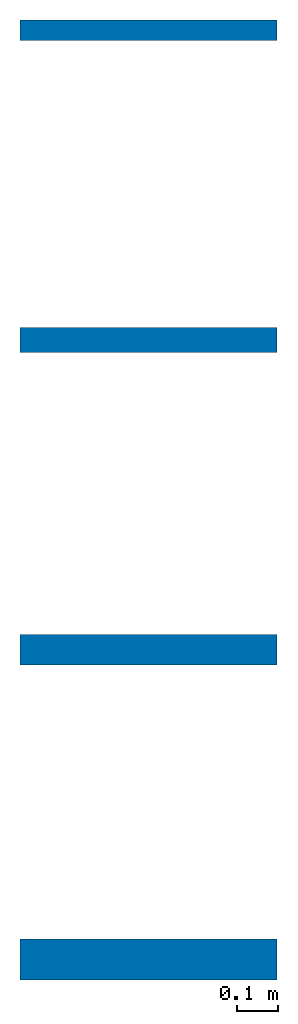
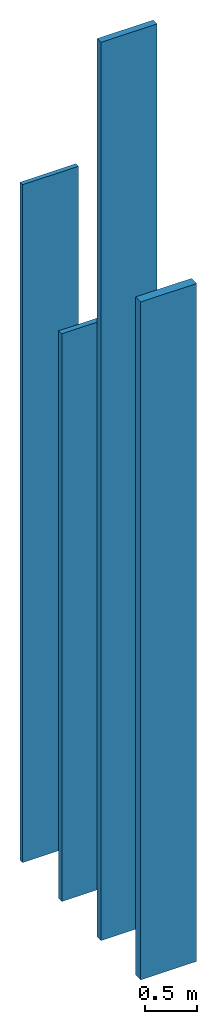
# One storey: 4 walls.
"""IFC2X3 building model written with IfcOpenShell, lengths in millimetres."""

from ifc_helpers import new_model, entity, si_unit, converted_unit, derived_unit, direction, frame, frame_2d, origin, place, context, subcontext, project, spatial, rectangle, extrude, material, layer, layer_set, layer_usage, type_object, element, save


model = new_model("IFC2X3")

# Units and contexts
model_context = context("Model", 3, precision=0.01, world=origin(), true_north=direction((6.12303176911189e-17, 1.0)))
body_context = subcontext(model_context, "Body", "Model", "MODEL_VIEW")
ifc_project = project(units=[si_unit("LENGTHUNIT", "METRE", prefix="MILLI"), si_unit("AREAUNIT", "SQUARE_METRE"), si_unit("VOLUMEUNIT", "CUBIC_METRE"), converted_unit("PLANEANGLEUNIT", "DEGREE", entity("IfcRatioMeasure", 0.0174532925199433), si_unit("PLANEANGLEUNIT", "RADIAN"), dimensions=[0, 0, 0, 0, 0, 0, 0]), si_unit("MASSUNIT", "GRAM", prefix="KILO"), si_unit("TIMEUNIT", "SECOND"), si_unit("FREQUENCYUNIT", "HERTZ"), si_unit("THERMODYNAMICTEMPERATUREUNIT", "DEGREE_CELSIUS"), derived_unit("THERMALTRANSMITTANCEUNIT", [(si_unit("MASSUNIT", "GRAM", prefix="KILO"), 1), (si_unit("THERMODYNAMICTEMPERATUREUNIT", "KELVIN"), -1), (si_unit("TIMEUNIT", "SECOND"), -3)]), derived_unit("VOLUMETRICFLOWRATEUNIT", [(si_unit("LENGTHUNIT", "METRE"), 3), (si_unit("TIMEUNIT", "SECOND"), -1)]), si_unit("ELECTRICCURRENTUNIT", "AMPERE"), si_unit("ELECTRICVOLTAGEUNIT", "VOLT"), si_unit("POWERUNIT", "WATT"), si_unit("FORCEUNIT", "NEWTON", prefix="KILO"), si_unit("ILLUMINANCEUNIT", "LUX"), si_unit("LUMINOUSFLUXUNIT", "LUMEN"), si_unit("LUMINOUSINTENSITYUNIT", "CANDELA"), derived_unit("USERDEFINED", [(si_unit("MASSUNIT", "GRAM", prefix="KILO"), -1), (si_unit("LENGTHUNIT", "METRE"), -2), (si_unit("TIMEUNIT", "SECOND"), 3), (si_unit("LUMINOUSFLUXUNIT", "LUMEN"), 1)]), derived_unit("LINEARVELOCITYUNIT", [(si_unit("LENGTHUNIT", "METRE"), 1), (si_unit("TIMEUNIT", "SECOND"), -1)]), si_unit("PRESSUREUNIT", "PASCAL"), derived_unit("USERDEFINED", [(si_unit("LENGTHUNIT", "METRE"), -2), (si_unit("MASSUNIT", "GRAM", prefix="KILO"), 1), (si_unit("TIMEUNIT", "SECOND"), -2)])], contexts=[model_context])

# Site, building, storey
site_placement = place(None, origin())
site = spatial("IfcSite", under=ifc_project, at=site_placement, Name="Default", CompositionType="ELEMENT")
building_placement = place(site_placement, origin())
building = spatial("IfcBuilding", under=site, at=building_placement, CompositionType="ELEMENT")
storey_placement = place(building_placement, origin())
storey = spatial("IfcBuildingStorey", under=building, at=storey_placement, Name="Референтни ниво", CompositionType="ELEMENT", Elevation=0.0)

# Walls
ifc_material_1 = material(Name="Knauf Insulation - Decibel - 50 mm - 50 x 8000 x 625 mm")
ifc_layer_1 = layer(ifc_material_1, 50.0)
ifc_layer_set_1 = layer_set([ifc_layer_1], Name="Basic Wall:Knauf Insulation - Decibel - 50 mm -50 x 8000 x 625 mm")
ifc_layer_usage_1 = layer_usage(ifc_layer_set_1, "AXIS2", "NEGATIVE", 25.0)
wall_type_1 = type_object("IfcWallType", Name="Basic Wall:Knauf Insulation - Decibel - 50 mm -50 x 8000 x 625 mm", PredefinedType="STANDARD", material=ifc_layer_set_1)
wall_1_placement = place(storey_placement, frame((-223048.241782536, 183217.205473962, 0.0)))
element("IfcWallStandardCase", 1, at=wall_1_placement, inside=storey, type_object=wall_type_1, material=ifc_layer_usage_1, Name="Basic Wall:Knauf Insulation - Decibel - 50 mm -50 x 8000 x 625 mm", ObjectType="Basic Wall:Knauf Insulation - Decibel - 50 mm -50 x 8000 x 625 mm", context=body_context, shape_type="SweptSolid", body=[
    extrude(rectangle(XDim=625.000000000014, YDim=50.0000000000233, at=frame_2d((312.500000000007, 0.0), x_axis=(-1.0, 0.0))), origin(), (0.0, 0.0, 1.0), 8000.0),
])
ifc_material_2 = material(Name="Knauf Insulation - Decibel - 60 mm - 60 x 6700 x 625 mm")
ifc_layer_2 = layer(ifc_material_2, 60.0)
ifc_layer_set_2 = layer_set([ifc_layer_2], Name="Basic Wall:Knauf Insulation - Decibel - 60 mm - 60 x 6700 x 625 mm")
ifc_layer_usage_2 = layer_usage(ifc_layer_set_2, "AXIS2", "NEGATIVE", 30.0)
wall_type_2 = type_object("IfcWallType", Name="Basic Wall:Knauf Insulation - Decibel - 60 mm - 60 x 6700 x 625 mm", PredefinedType="STANDARD", material=ifc_layer_set_2)
wall_2_placement = place(storey_placement, frame((-223048.241782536, 182464.705473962, 0.0)))
element("IfcWallStandardCase", 2, at=wall_2_placement, inside=storey, type_object=wall_type_2, material=ifc_layer_usage_2, Name="Basic Wall:Knauf Insulation - Decibel - 60 mm - 60 x 6700 x 625 mm", ObjectType="Basic Wall:Knauf Insulation - Decibel - 60 mm - 60 x 6700 x 625 mm", context=body_context, shape_type="SweptSolid", body=[
    extrude(rectangle(XDim=625.000000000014, YDim=59.9999999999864, at=frame_2d((312.500000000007, 0.0), x_axis=(-1.0, 0.0))), origin(), (0.0, 0.0, 1.0), 6700.0),
])
ifc_material_3 = material(Name="Knauf Insulation - Decibel - 75 mm - 75 x 10600 x 625 mm")
ifc_layer_3 = layer(ifc_material_3, 75.0)
ifc_layer_set_3 = layer_set([ifc_layer_3], Name="Basic Wall:Knauf Insulation - Decibel - 75 mm - 75 x 10600 x 625 mm")
ifc_layer_usage_3 = layer_usage(ifc_layer_set_3, "AXIS2", "NEGATIVE", 37.5)
wall_type_3 = type_object("IfcWallType", Name="Basic Wall:Knauf Insulation - Decibel - 75 mm - 75 x 10600 x 625 mm", PredefinedType="STANDARD", material=ifc_layer_set_3)
wall_3_placement = place(storey_placement, frame((-223048.241782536, 181712.205473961, 0.0)))
element("IfcWallStandardCase", 3, at=wall_3_placement, inside=storey, type_object=wall_type_3, material=ifc_layer_usage_3, Name="Basic Wall:Knauf Insulation - Decibel - 75 mm - 75 x 10600 x 625 mm", ObjectType="Basic Wall:Knauf Insulation - Decibel - 75 mm - 75 x 10600 x 625 mm", context=body_context, shape_type="SweptSolid", body=[
    extrude(rectangle(XDim=625.000000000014, YDim=74.9999999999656, at=frame_2d((312.500000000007, 0.0), x_axis=(-1.0, 0.0))), origin(), (0.0, 0.0, 1.0), 10600.0),
])
ifc_material_4 = material(Name="Knauf Insulation - Decibel - 100 mm - 100 x 8000 x 625 mm")
ifc_layer_4 = layer(ifc_material_4, 100.0)
ifc_layer_set_4 = layer_set([ifc_layer_4], Name="Basic Wall:Knauf Insulation - Decibel - 100 mm - 100 x 8000 x 625 mm")
ifc_layer_usage_4 = layer_usage(ifc_layer_set_4, "AXIS2", "NEGATIVE", 50.0)
wall_type_4 = type_object("IfcWallType", Name="Basic Wall:Knauf Insulation - Decibel - 100 mm - 100 x 8000 x 625 mm", PredefinedType="STANDARD", material=ifc_layer_set_4)
wall_4_placement = place(storey_placement, frame((-223048.241782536, 180959.705473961, 0.0)))
element("IfcWallStandardCase", 4, at=wall_4_placement, inside=storey, type_object=wall_type_4, material=ifc_layer_usage_4, Name="Basic Wall:Knauf Insulation - Decibel - 100 mm - 100 x 8000 x 625 mm", ObjectType="Basic Wall:Knauf Insulation - Decibel - 100 mm - 100 x 8000 x 625 mm", context=body_context, shape_type="SweptSolid", body=[
    extrude(rectangle(XDim=625.000000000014, YDim=99.9999999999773, at=frame_2d((312.500000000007, 0.0), x_axis=(-1.0, 0.0))), origin(), (0.0, 0.0, 1.0), 8000.0),
])

save(model, "model.ifc")
